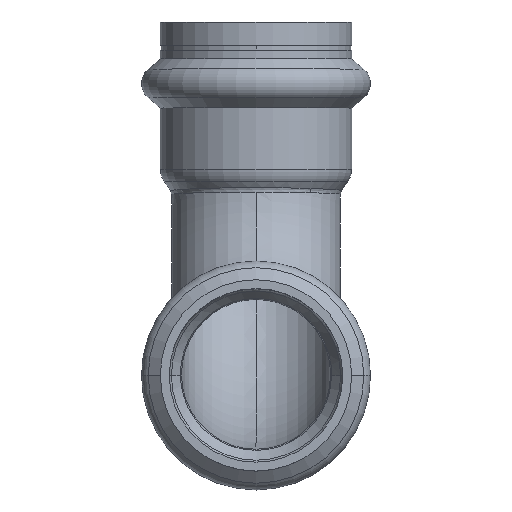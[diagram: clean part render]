
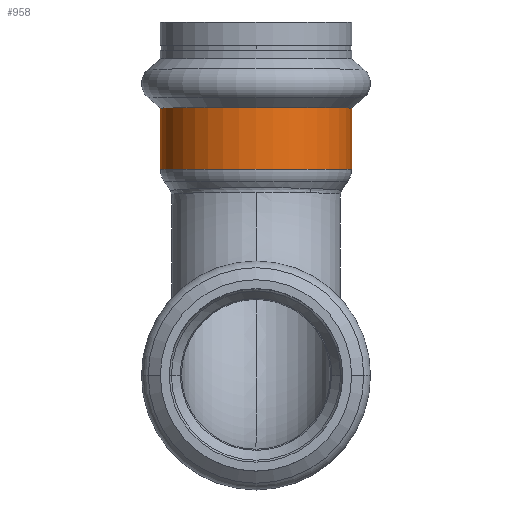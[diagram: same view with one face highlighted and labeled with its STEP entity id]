
A CAD part, top view. The second image highlights one B-rep face of the part: STEP entity #958.
In plain terms, the highlighted cylindrical face has radius 15.6 mm (diameter 31.2 mm), a partial arc.
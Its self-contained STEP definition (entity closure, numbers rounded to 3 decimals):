
#113 = VERTEX_POINT ( 'NONE', #3004 ) ;
#640 = EDGE_CURVE ( 'NONE', #1467, #113, #3618, .T. ) ;
#698 = CIRCLE ( 'NONE', #1759, 15.6 ) ;
#945 = CARTESIAN_POINT ( 'NONE',  ( -15.6, 62.626, 0. ) ) ;
#951 = DIRECTION ( 'NONE',  ( 0., 1., 0. ) ) ;
#958 = ADVANCED_FACE ( 'NONE', ( #3023 ), #2917, .T. ) ;
#1219 = EDGE_CURVE ( 'NONE', #1232, #2099, #2387, .T. ) ;
#1232 = VERTEX_POINT ( 'NONE', #2699 ) ;
#1435 = EDGE_CURVE ( 'NONE', #113, #2099, #1703, .T. ) ;
#1467 = VERTEX_POINT ( 'NONE', #1717 ) ;
#1516 = CARTESIAN_POINT ( 'NONE',  ( 0., 43.697, 0. ) ) ;
#1532 = DIRECTION ( 'NONE',  ( 0., 1., 0. ) ) ;
#1535 = DIRECTION ( 'NONE',  ( 0., 0., 1. ) ) ;
#1703 = CIRCLE ( 'NONE', #2264, 15.6 ) ;
#1717 = CARTESIAN_POINT ( 'NONE',  ( -15.6, 33.7, 0. ) ) ;
#1759 = AXIS2_PLACEMENT_3D ( 'NONE', #2839, #2828, #2816 ) ;
#2031 = AXIS2_PLACEMENT_3D ( 'NONE', #3547, #3617, #3665 ) ;
#2099 = VERTEX_POINT ( 'NONE', #2887 ) ;
#2123 = EDGE_CURVE ( 'NONE', #1232, #1467, #698, .T. ) ;
#2264 = AXIS2_PLACEMENT_3D ( 'NONE', #1516, #1532, #1535 ) ;
#2274 = ORIENTED_EDGE ( 'NONE', *, *, #2123, .F. ) ;
#2387 = LINE ( 'NONE', #3855, #2487 ) ;
#2487 = VECTOR ( 'NONE', #4062, 1000. ) ;
#2699 = CARTESIAN_POINT ( 'NONE',  ( 15.6, 33.7, 0. ) ) ;
#2745 = ORIENTED_EDGE ( 'NONE', *, *, #1219, .T. ) ;
#2816 = DIRECTION ( 'NONE',  ( 1., 0., 0. ) ) ;
#2828 = DIRECTION ( 'NONE',  ( 0., -1., 0. ) ) ;
#2839 = CARTESIAN_POINT ( 'NONE',  ( 0., 33.7, 0. ) ) ;
#2887 = CARTESIAN_POINT ( 'NONE',  ( 15.6, 43.697, 0. ) ) ;
#2917 = CYLINDRICAL_SURFACE ( 'NONE', #2031, 15.6 ) ;
#3004 = CARTESIAN_POINT ( 'NONE',  ( -15.6, 43.697, 0. ) ) ;
#3023 = FACE_OUTER_BOUND ( 'NONE', #3325, .T. ) ;
#3025 = ORIENTED_EDGE ( 'NONE', *, *, #640, .F. ) ;
#3325 = EDGE_LOOP ( 'NONE', ( #3025, #2274, #2745, #3479 ) ) ;
#3479 = ORIENTED_EDGE ( 'NONE', *, *, #1435, .F. ) ;
#3547 = CARTESIAN_POINT ( 'NONE',  ( 0., 62.626, 0. ) ) ;
#3617 = DIRECTION ( 'NONE',  ( 0., 1., 0. ) ) ;
#3618 = LINE ( 'NONE', #945, #3656 ) ;
#3656 = VECTOR ( 'NONE', #951, 1000. ) ;
#3665 = DIRECTION ( 'NONE',  ( 1., 0., 0. ) ) ;
#3855 = CARTESIAN_POINT ( 'NONE',  ( 15.6, 62.626, 0. ) ) ;
#4062 = DIRECTION ( 'NONE',  ( 0., 1., 0. ) ) ;
